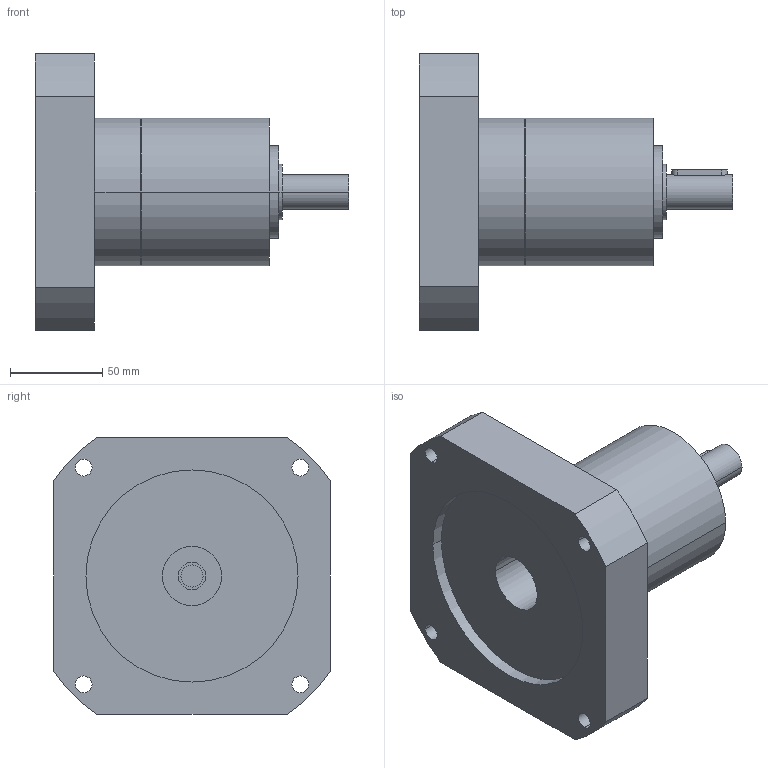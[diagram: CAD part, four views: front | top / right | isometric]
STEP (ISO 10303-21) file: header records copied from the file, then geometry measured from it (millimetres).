
FILE_DESCRIPTION(('CoCreate Modeling STEP Export'),'2;1');
FILE_NAME('GPR100_ig-3-4-5-6_19_B14_12.7_P11.stp','2014-08-26T10:06:51',(''),(''),'CoCreate Modeling STEP processor for AP214 (Solid Model)','CoCreate Modeling 16.00C 25-Feb-2009 (C) Parametric Technology GmbH','');
FILE_SCHEMA(('AUTOMOTIVE_DESIGN { 1 0 10303 214 1 1 1 1 }'));
Length unit declared in the file: millimetre
Products named in the file (2): GPR100_ig-3-4-5-6_19_B14_12.7_P11
Assembly tree (1 placements, depth 2):
  GPR100_ig-3-4-5-6_19_B14_12.7_P11
    GPR100_ig-3-4-5-6_19_B14_12.7_P11
Bounding box: 170 x 150 x 150 mm (x, y, z)
Volume: 1088759 mm3; surface area: 98606.2 mm2
Topology: 1 solids, 1 shells, 70 faces, 187 edges, 131 vertices
Faces by surface type: cylinder 42, plane 22, cone 6
Entity records: 1934 total; most frequent: ORIENTED_EDGE 370, CARTESIAN_POINT 359, DIRECTION 262, EDGE_CURVE 185, VERTEX_POINT 131, AXIS2_PLACEMENT_3D 98, EDGE_LOOP 92, FACE_OUTER_BOUND 70
